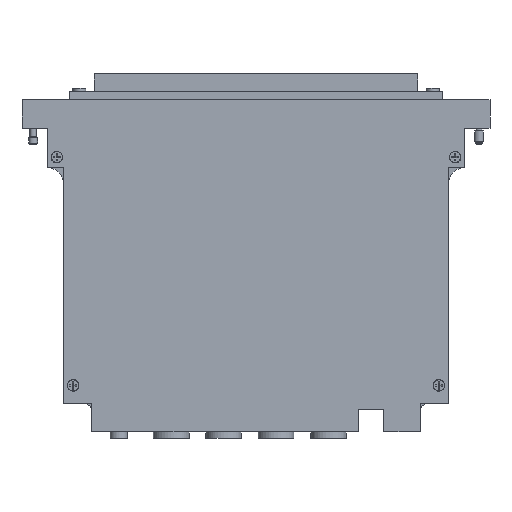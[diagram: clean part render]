
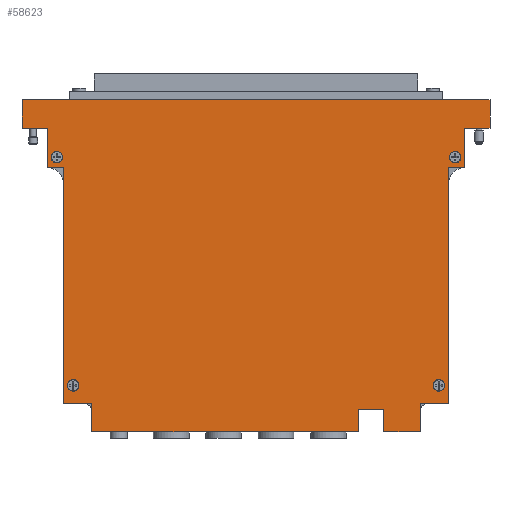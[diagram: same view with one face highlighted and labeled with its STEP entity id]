
A CAD part, left-side view. The second image highlights one B-rep face of the part: STEP entity #58623.
In plain terms, the highlighted planar face has unit normal (-1, 0, 0).
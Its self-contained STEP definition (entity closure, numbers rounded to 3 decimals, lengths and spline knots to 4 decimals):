
#6413=LINE($,#99857,#10838);
#6417=LINE($,#99864,#10842);
#6420=LINE($,#99870,#10845);
#6424=LINE($,#99877,#10849);
#6427=LINE($,#99883,#10852);
#6430=LINE($,#99889,#10855);
#6433=LINE($,#99893,#10858);
#6434=LINE($,#99895,#10859);
#6435=LINE($,#99897,#10860);
#6436=LINE($,#99901,#10861);
#6440=LINE($,#99910,#10865);
#6577=LINE($,#100473,#11002);
#6583=LINE($,#100486,#11008);
#6688=LINE($,#100971,#11113);
#6706=LINE($,#101027,#11131);
#6718=LINE($,#101058,#11143);
#6724=LINE($,#101078,#11149);
#6726=LINE($,#101081,#11151);
#6727=LINE($,#101083,#11152);
#6728=LINE($,#101085,#11153);
#10838=VECTOR($,#71316,0.437);
#10842=VECTOR($,#71322,0.437);
#10845=VECTOR($,#71327,0.437);
#10849=VECTOR($,#71333,0.437);
#10852=VECTOR($,#71338,0.348);
#10855=VECTOR($,#71343,0.348);
#10858=VECTOR($,#71348,0.387);
#10859=VECTOR($,#71351,4.116);
#10860=VECTOR($,#71354,0.563);
#10861=VECTOR($,#71357,0.25);
#10865=VECTOR($,#71363,0.25);
#11002=VECTOR($,#71926,3.641);
#11008=VECTOR($,#71944,3.641);
#11113=VECTOR($,#72425,0.605);
#11131=VECTOR($,#72479,0.44);
#11143=VECTOR($,#72507,0.44);
#11149=VECTOR($,#72535,0.605);
#11151=VECTOR($,#72539,0.3875);
#11152=VECTOR($,#72542,0.3875);
#11153=VECTOR($,#72545,7.215);
#13313=PLANE($,#61999);
#14471=FACE_BOUND($,#21524,.T.);
#14472=FACE_BOUND($,#21525,.T.);
#14473=FACE_BOUND($,#21526,.T.);
#14474=FACE_BOUND($,#21527,.T.);
#14475=FACE_BOUND($,#21528,.T.);
#21524=EDGE_LOOP($,(#49705));
#21525=EDGE_LOOP($,(#49706));
#21526=EDGE_LOOP($,(#49707));
#21527=EDGE_LOOP($,(#49708));
#21528=EDGE_LOOP($,(#49709,#49710,#49711,#49712,#49713,#49714,#49715,#49716,
#49717,#49718,#49719,#49720,#49721,#49722,#49723,#49724,#49725,#49726,#49727,
#49728));
#23245=CIRCLE($,#61523,0.09);
#23248=CIRCLE($,#61528,0.09);
#23251=CIRCLE($,#61533,0.09);
#23254=CIRCLE($,#61538,0.09);
#28058=VERTEX_POINT($,#99823);
#28061=VERTEX_POINT($,#99831);
#28064=VERTEX_POINT($,#99839);
#28067=VERTEX_POINT($,#99847);
#28070=VERTEX_POINT($,#99855);
#28071=VERTEX_POINT($,#99856);
#28073=VERTEX_POINT($,#99863);
#28074=VERTEX_POINT($,#99868);
#28075=VERTEX_POINT($,#99869);
#28077=VERTEX_POINT($,#99876);
#28078=VERTEX_POINT($,#99881);
#28079=VERTEX_POINT($,#99882);
#28080=VERTEX_POINT($,#99887);
#28081=VERTEX_POINT($,#99888);
#28082=VERTEX_POINT($,#99899);
#28083=VERTEX_POINT($,#99900);
#28086=VERTEX_POINT($,#99908);
#28087=VERTEX_POINT($,#99909);
#28393=VERTEX_POINT($,#100969);
#28412=VERTEX_POINT($,#101024);
#28413=VERTEX_POINT($,#101026);
#28423=VERTEX_POINT($,#101055);
#28424=VERTEX_POINT($,#101057);
#28427=VERTEX_POINT($,#101077);
#35211=EDGE_CURVE($,#28058,#28058,#23245,.T.);
#35214=EDGE_CURVE($,#28061,#28061,#23248,.T.);
#35217=EDGE_CURVE($,#28064,#28064,#23251,.T.);
#35220=EDGE_CURVE($,#28067,#28067,#23254,.T.);
#35223=EDGE_CURVE($,#28070,#28071,#6413,.T.);
#35227=EDGE_CURVE($,#28071,#28073,#6417,.T.);
#35230=EDGE_CURVE($,#28074,#28075,#6420,.T.);
#35234=EDGE_CURVE($,#28077,#28074,#6424,.T.);
#35237=EDGE_CURVE($,#28078,#28079,#6427,.T.);
#35240=EDGE_CURVE($,#28080,#28081,#6430,.T.);
#35243=EDGE_CURVE($,#28081,#28078,#6433,.T.);
#35244=EDGE_CURVE($,#28075,#28080,#6434,.T.);
#35245=EDGE_CURVE($,#28079,#28070,#6435,.T.);
#35246=EDGE_CURVE($,#28082,#28083,#6436,.T.);
#35250=EDGE_CURVE($,#28086,#28087,#6440,.T.);
#35478=EDGE_CURVE($,#28073,#28086,#6577,.T.);
#35485=EDGE_CURVE($,#28083,#28077,#6583,.T.);
#35688=EDGE_CURVE($,#28393,#28087,#6688,.T.);
#35713=EDGE_CURVE($,#28412,#28413,#6706,.T.);
#35728=EDGE_CURVE($,#28424,#28423,#6718,.T.);
#35738=EDGE_CURVE($,#28427,#28082,#6724,.T.);
#35740=EDGE_CURVE($,#28393,#28413,#6726,.T.);
#35741=EDGE_CURVE($,#28423,#28427,#6727,.T.);
#35742=EDGE_CURVE($,#28424,#28412,#6728,.T.);
#49705=ORIENTED_EDGE($,*,*,#35220,.T.);
#49706=ORIENTED_EDGE($,*,*,#35217,.T.);
#49707=ORIENTED_EDGE($,*,*,#35214,.T.);
#49708=ORIENTED_EDGE($,*,*,#35211,.T.);
#49709=ORIENTED_EDGE($,*,*,#35688,.F.);
#49710=ORIENTED_EDGE($,*,*,#35740,.T.);
#49711=ORIENTED_EDGE($,*,*,#35713,.F.);
#49712=ORIENTED_EDGE($,*,*,#35742,.F.);
#49713=ORIENTED_EDGE($,*,*,#35728,.T.);
#49714=ORIENTED_EDGE($,*,*,#35741,.T.);
#49715=ORIENTED_EDGE($,*,*,#35738,.T.);
#49716=ORIENTED_EDGE($,*,*,#35246,.T.);
#49717=ORIENTED_EDGE($,*,*,#35485,.T.);
#49718=ORIENTED_EDGE($,*,*,#35234,.T.);
#49719=ORIENTED_EDGE($,*,*,#35230,.T.);
#49720=ORIENTED_EDGE($,*,*,#35244,.T.);
#49721=ORIENTED_EDGE($,*,*,#35240,.T.);
#49722=ORIENTED_EDGE($,*,*,#35243,.T.);
#49723=ORIENTED_EDGE($,*,*,#35237,.T.);
#49724=ORIENTED_EDGE($,*,*,#35245,.T.);
#49725=ORIENTED_EDGE($,*,*,#35223,.T.);
#49726=ORIENTED_EDGE($,*,*,#35227,.T.);
#49727=ORIENTED_EDGE($,*,*,#35478,.T.);
#49728=ORIENTED_EDGE($,*,*,#35250,.T.);
#58623=ADVANCED_FACE($,(#14471,#14472,#14473,#14474,#14475),#13313,.T.);
#61523=AXIS2_PLACEMENT_3D($,#99824,#71276,#71277);
#61528=AXIS2_PLACEMENT_3D($,#99832,#71286,#71287);
#61533=AXIS2_PLACEMENT_3D($,#99840,#71296,#71297);
#61538=AXIS2_PLACEMENT_3D($,#99848,#71306,#71307);
#61999=AXIS2_PLACEMENT_3D($,#101084,#72543,#72544);
#71276=DIRECTION('center_axis',(1.,0.,0.));
#71277=DIRECTION('ref_axis',(0.,0.,
1.));
#71286=DIRECTION('center_axis',(1.,0.,0.));
#71287=DIRECTION('ref_axis',(0.,0.,
1.));
#71296=DIRECTION('center_axis',(1.,0.,0.));
#71297=DIRECTION('ref_axis',(0.,0.,
1.));
#71306=DIRECTION('center_axis',(1.,0.,0.));
#71307=DIRECTION('ref_axis',(0.,0.,
1.));
#71316=DIRECTION($,(0.,0.,1.));
#71322=DIRECTION($,(0.,-1.,0.));
#71327=DIRECTION($,(0.,0.,-1.));
#71333=DIRECTION($,(0.,-1.,0.));
#71338=DIRECTION($,(0.,0.,-1.));
#71343=DIRECTION($,(0.,0.,1.));
#71348=DIRECTION($,(0.,-1.,0.));
#71351=DIRECTION($,(0.,-1.,0.));
#71354=DIRECTION($,(0.,-1.,0.));
#71357=DIRECTION($,(0.,-1.,0.));
#71363=DIRECTION($,(0.,-1.,0.));
#71926=DIRECTION($,(0.,0.,1.));
#71944=DIRECTION($,(0.,0.,-1.));
#72425=DIRECTION($,(0.,0.,-1.));
#72479=DIRECTION($,(0.,0.,-1.));
#72507=DIRECTION($,(0.,0.,-1.));
#72535=DIRECTION($,(0.,0.,-1.));
#72539=DIRECTION($,(0.,-1.,0.));
#72542=DIRECTION($,(0.,-1.,0.));
#72543=DIRECTION('center_axis',(-1.,0.,0.));
#72544=DIRECTION('ref_axis',(0.,0.,1.));
#72545=DIRECTION($,(0.,-1.,0.));
#99823=CARTESIAN_POINT('',(-9.6087,16.7359,-3.689));
#99824=CARTESIAN_POINT('Origin',(-9.6087,16.7359,-3.779));
#99831=CARTESIAN_POINT('',(-9.6087,11.0959,-3.689));
#99832=CARTESIAN_POINT('Origin',(-9.6087,11.0959,-3.779));
#99839=CARTESIAN_POINT('',(-9.6087,10.8459,-0.17));
#99840=CARTESIAN_POINT('Origin',(-9.6087,10.8459,-0.26));
#99847=CARTESIAN_POINT('',(-9.6087,16.9859,-0.17));
#99848=CARTESIAN_POINT('Origin',(-9.6087,16.9859,-0.26));
#99855=CARTESIAN_POINT('',(-9.6087,11.3829,-4.498));
#99856=CARTESIAN_POINT('',(-9.6087,11.3829,-4.061));
#99857=CARTESIAN_POINT($,(-9.6087,11.3829,-3.3885));
#99863=CARTESIAN_POINT('',(-9.6087,10.9459,-4.061));
#99864=CARTESIAN_POINT($,(-9.6087,12.6494,-4.061));
#99868=CARTESIAN_POINT('',(-9.6087,16.4489,-4.061));
#99869=CARTESIAN_POINT('',(-9.6087,16.4489,-4.498));
#99870=CARTESIAN_POINT($,(-9.6087,16.4489,-3.17));
#99876=CARTESIAN_POINT('',(-9.6087,16.8859,-4.061));
#99877=CARTESIAN_POINT($,(-9.6087,15.4009,-4.061));
#99881=CARTESIAN_POINT('',(-9.6087,11.9459,-4.15));
#99882=CARTESIAN_POINT('',(-9.6087,11.9459,-4.498));
#99883=CARTESIAN_POINT($,(-9.6087,11.9459,-3.2145));
#99887=CARTESIAN_POINT('',(-9.6087,12.3329,-4.498));
#99888=CARTESIAN_POINT('',(-9.6087,12.3329,-4.15));
#99889=CARTESIAN_POINT($,(-9.6087,12.3329,-3.3885));
#99893=CARTESIAN_POINT($,(-9.6087,13.1244,-4.15));
#99895=CARTESIAN_POINT($,(-9.6087,17.1359,-4.498));
#99897=CARTESIAN_POINT($,(-9.6087,17.1359,-4.498));
#99899=CARTESIAN_POINT('',(-9.6087,17.1359,-0.42));
#99900=CARTESIAN_POINT('',(-9.6087,16.8859,-0.42));
#99901=CARTESIAN_POINT($,(-9.6087,15.5259,-0.42));
#99908=CARTESIAN_POINT('',(-9.6087,10.9459,-0.42));
#99909=CARTESIAN_POINT('',(-9.6087,10.6959,-0.42));
#99910=CARTESIAN_POINT($,(-9.6087,12.4309,-0.42));
#100473=CARTESIAN_POINT($,(-9.6087,10.9459,-3.3885));
#100486=CARTESIAN_POINT($,(-9.6087,16.8859,-1.3495));
#100969=CARTESIAN_POINT('',(-9.6087,10.6959,0.185));
#100971=CARTESIAN_POINT($,(-9.6087,10.6959,0.625));
#101024=CARTESIAN_POINT('',(-9.6087,10.3084,0.625));
#101026=CARTESIAN_POINT('',(-9.6087,10.3084,0.185));
#101027=CARTESIAN_POINT($,(-9.6087,10.3084,0.625));
#101055=CARTESIAN_POINT('',(-9.6087,17.5234,0.185));
#101057=CARTESIAN_POINT('',(-9.6087,17.5234,0.625));
#101058=CARTESIAN_POINT($,(-9.6087,17.5234,0.625));
#101077=CARTESIAN_POINT('',(-9.6087,17.1359,0.185));
#101078=CARTESIAN_POINT($,(-9.6087,17.1359,0.625));
#101081=CARTESIAN_POINT($,(-9.6087,17.5234,0.185));
#101083=CARTESIAN_POINT($,(-9.6087,17.5234,0.185));
#101084=CARTESIAN_POINT('Origin',(-9.6087,10.6959,0.625));
#101085=CARTESIAN_POINT($,(-9.6087,17.5234,0.625));
